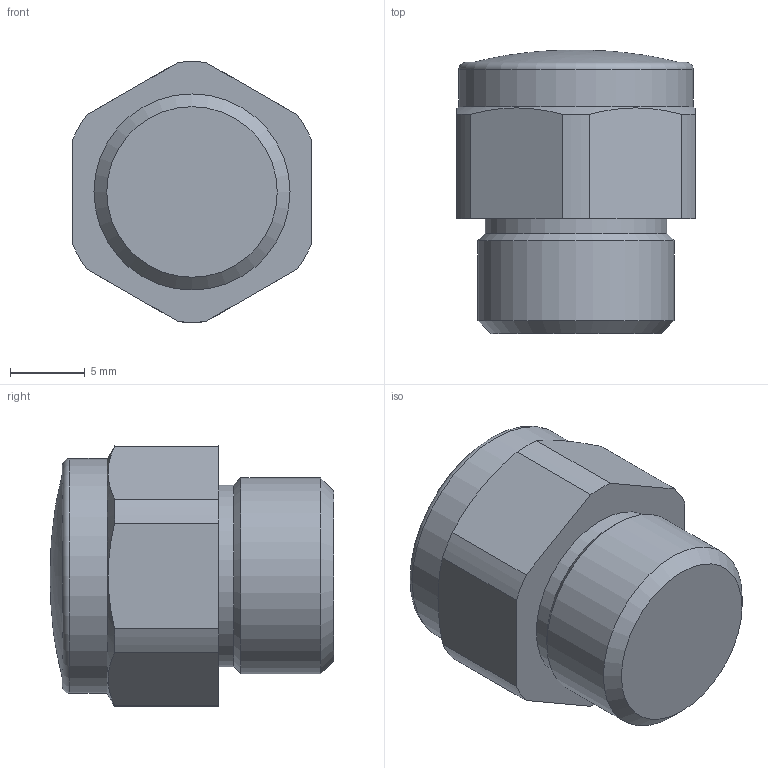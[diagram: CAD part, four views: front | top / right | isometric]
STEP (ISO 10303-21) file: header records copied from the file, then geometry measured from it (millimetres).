
FILE_DESCRIPTION( ( 'STEP AP214' ), '1' );
FILE_NAME( 'p:/temp/worker_6/temp/exporttempdir_6012_274_RptdT/format_0/W0970530053.stp', '2021-12-09T08:46:55', ( 'License CC BY-ND 4.0' ), ( 'CADENAS' ), ' ', 'PARTsolutions', ' ' );
FILE_SCHEMA( ( 'AUTOMOTIVE_DESIGN { 1 0 10303 214 1 1 1 1 }' ) );
Length unit declared in the file: millimetre
Products named in the file (1): _W0970530053
Bounding box: 16 x 19.01 x 17.49 mm (x, y, z)
Volume: 3295.2 mm3; surface area: 1290.3 mm2
Topology: 1 solids, 1 shells, 23 faces, 55 edges, 35 vertices
Faces by surface type: plane 9, cylinder 9, cone 3, bspline 1, torus 1
Full cylindrical faces by diameter (mm): 12.2 x1, 13.157 x1, 15.768 x1
Entity records: 877 total; most frequent: CARTESIAN_POINT 180, DIRECTION 106, ORIENTED_EDGE 90, EDGE_CURVE 45, AXIS2_PLACEMENT_3D 44, VERTEX_POINT 34, EDGE_LOOP 32, FACE_OUTER_BOUND 27
